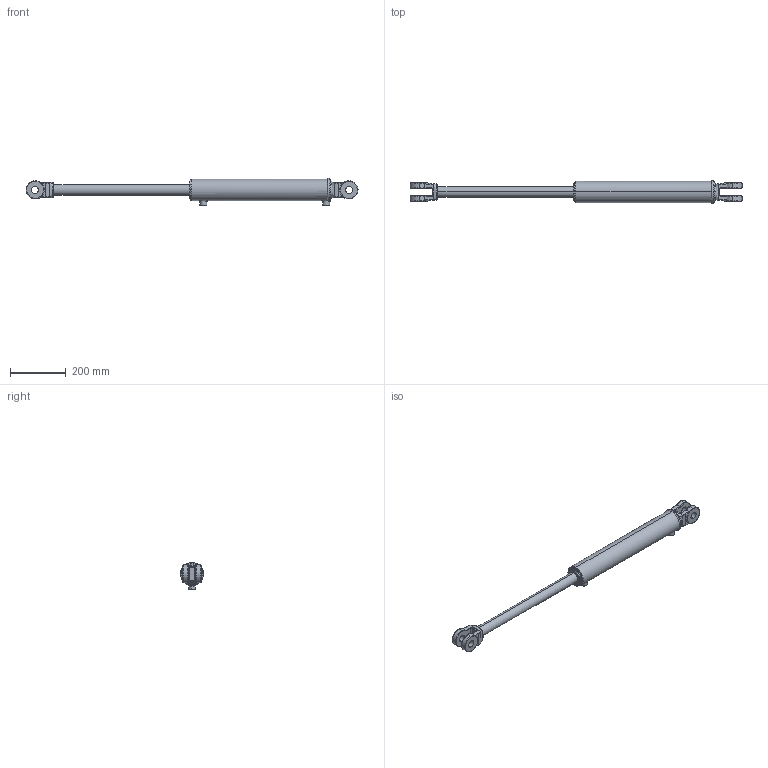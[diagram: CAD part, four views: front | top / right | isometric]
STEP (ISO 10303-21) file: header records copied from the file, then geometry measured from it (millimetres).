
FILE_DESCRIPTION (( 'STEP AP203' ), '1' );
FILE_NAME ('CL-CL250150x406 (16) extended.STEP', '2014-11-21T02:22:49', ( '' ), ( '' ), 'SwSTEP 2.0', 'SolidWorks 2014', '' );
FILE_SCHEMA (( 'CONFIG_CONTROL_DESIGN' ));
Length unit declared in the file: millimetre
Products named in the file (5): SPARE 6_16-xx; CL-CL250150x406 (16) extended; CL-CL250150x406 (16) body; 2.5 inch ext circlip; CL-CL250150x406 (16) BODY
Assembly tree (4 placements, depth 3):
  CL-CL250150x406 (16) extended
    CL-CL250150x406 (16) BODY
      CL-CL250150x406 (16) body
      2.5 inch ext circlip
    SPARE 6_16-xx
Bounding box: 1186.39 x 82.18 x 97.2 mm (x, y, z)
Volume: 3099522.4 mm3; surface area: 276626.6 mm2
Topology: 3 solids, 3 shells, 210 faces, 512 edges, 315 vertices
Faces by surface type: cylinder 91, bspline 59, plane 37, torus 15, cone 8
Entity records: 11387 total; most frequent: CARTESIAN_POINT 6222, ORIENTED_EDGE 1016, DIRECTION 943, EDGE_CURVE 508, AXIS2_PLACEMENT_3D 394, VERTEX_POINT 315, CIRCLE 235, EDGE_LOOP 233
